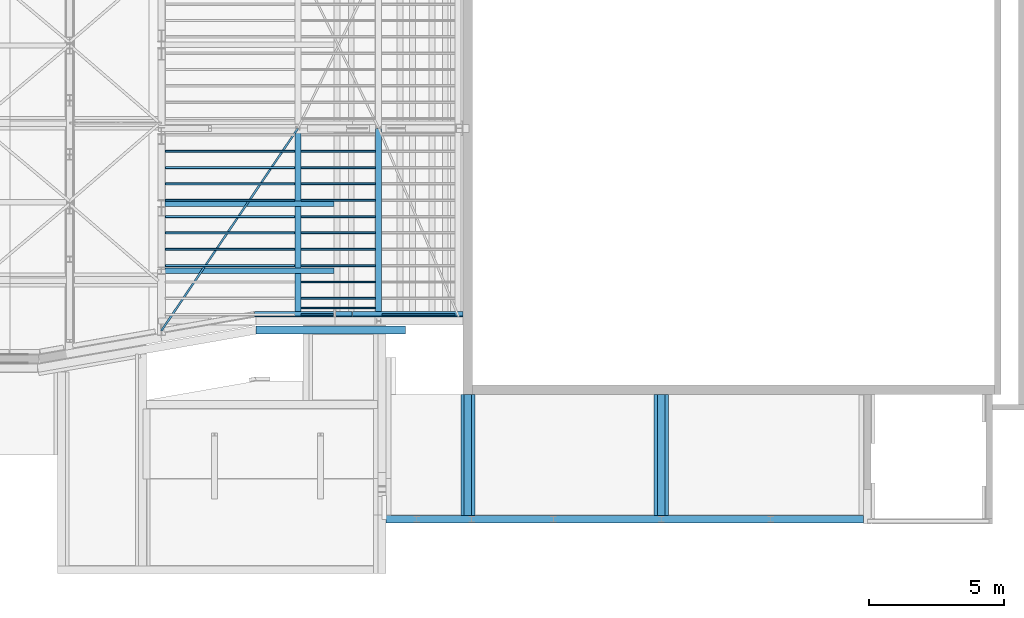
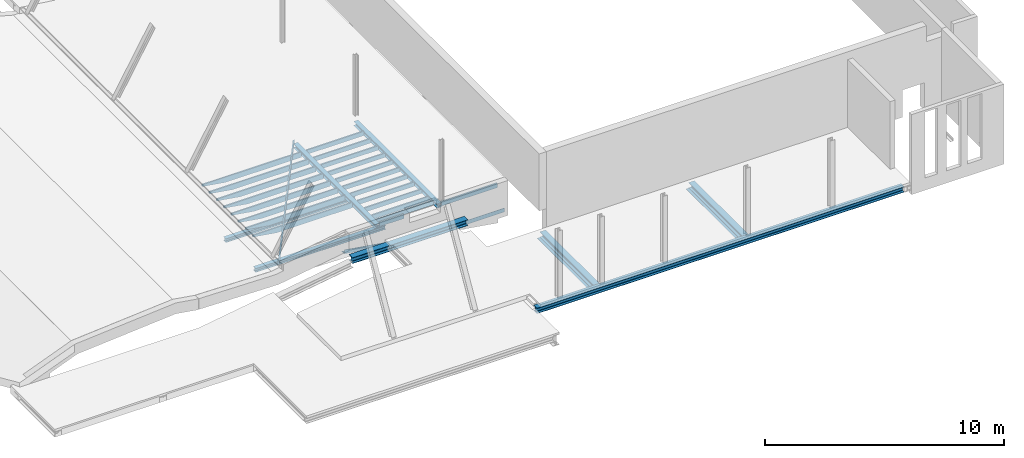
# One storey, part 26 of 50: 32 beams.
"""IFC2X3 building model written with IfcOpenShell, lengths in millimetres."""

import ifcopenshell
import ifcopenshell.guid

model = None  # the IFC model being written
_history = None  # IfcOwnerHistory: only IFC2X3 demands one
_inside = {}  # id of a spatial element -> (the spatial element, [elements in it])
_under = {}  # id of a project, library or spatial element -> (it, [spatial elements below it])
_declared = {}  # id of a project -> (the project, [libraries it declares])
_typed = {}  # id of a type object -> (the type object, [elements of that type])
_made_of = {}  # id of a material, layer set ... -> (it, [elements and type objects made of it])


def new_model(schema):
    """Start an empty IFC model of exactly this schema.

    Asked for "IFC4X3", IfcOpenShell would pick the latest addendum, in which some entities
    have other attributes; the version numbers below select the first issue.
    IFC2X3 requires an IfcOwnerHistory on every rooted entity: one is made here for all.
    """
    global model, _history
    if schema == "IFC4X3":
        model = ifcopenshell.file(schema_version=(4, 3, 0, 0))
    else:
        model = ifcopenshell.file(schema=schema)
    _inside.clear()
    _under.clear()
    _declared.clear()
    _typed.clear()
    _made_of.clear()
    _history = None
    if model.schema == "IFC2X3":
        org = make("IfcOrganization", Name="unknown")
        user = make(
            "IfcPersonAndOrganization",
            ThePerson=make("IfcPerson", FamilyName="unknown"),
            TheOrganization=org,
        )
        app = make(
            "IfcApplication",
            ApplicationDeveloper=org,
            Version="unknown",
            ApplicationFullName="unknown",
            ApplicationIdentifier="unknown",
        )
        _history = make(
            "IfcOwnerHistory",
            OwningUser=user,
            OwningApplication=app,
            ChangeAction="ADDED",
            CreationDate=0,
        )
    return model


def make(cls, **values):
    """One entity of the class cls with the attributes given. An attribute that is None is left unset."""
    return model.create_entity(
        cls, **{name: value for name, value in values.items() if value is not None}
    )


def entity(cls, *values):
    """Any entity or typed value of the class cls, its attributes in the order of the schema. None: left unset."""
    e = model.create_entity(cls)
    for i, value in enumerate(values):
        if value is not None:
            e[i] = value
    return e


def rooted(cls, **values):
    """An entity with a GlobalId (a new one), such as an element, a storey or a relation."""
    return make(cls, GlobalId=ifcopenshell.guid.new(), OwnerHistory=_history, **values)


def si_unit(unit_type, name, prefix=None):
    """IfcSIUnit, for example si_unit("LENGTHUNIT", "METRE", prefix="MILLI")."""
    return make("IfcSIUnit", UnitType=unit_type, Prefix=prefix, Name=name)


def converted_unit(unit_type, name, factor, base, dimensions=None, offset=None):
    """IfcConversionBasedUnit, such as the inch: factor (a typed value) times the base unit."""
    return make(
        "IfcConversionBasedUnit"
        if offset is None
        else "IfcConversionBasedUnitWithOffset",
        ConversionOffset=offset,
        Dimensions=None
        if dimensions is None
        else entity("IfcDimensionalExponents", *dimensions),
        UnitType=unit_type,
        Name=name,
        ConversionFactor=make(
            "IfcMeasureWithUnit", ValueComponent=factor, UnitComponent=base
        ),
    )


def derived_unit(unit_type, elements):
    """IfcDerivedUnit: a product of units, each with its exponent."""
    return make(
        "IfcDerivedUnit",
        Elements=[
            make("IfcDerivedUnitElement", Unit=unit, Exponent=power)
            for unit, power in elements
        ],
        UnitType=unit_type,
    )


def assignment(units):
    """IfcUnitAssignment: the units of a project."""
    return None if units is None else make("IfcUnitAssignment", Units=units)


def point(xyz):
    """IfcCartesianPoint."""
    return None if xyz is None else make("IfcCartesianPoint", Coordinates=xyz)


def direction(xyz):
    """IfcDirection."""
    return None if xyz is None else make("IfcDirection", DirectionRatios=xyz)


def frame(location, z_axis=None, x_axis=None):
    """IfcAxis2Placement3D, a coordinate frame: its origin and axes. An axis left out is left unset."""
    return make(
        "IfcAxis2Placement3D",
        Location=point(location),
        Axis=direction(z_axis),
        RefDirection=direction(x_axis),
    )


def frame_2d(location, x_axis=None):
    """IfcAxis2Placement2D, a coordinate frame in the plane: its origin and x axis."""
    return make(
        "IfcAxis2Placement2D", Location=point(location), RefDirection=direction(x_axis)
    )


def origin():
    """The frame at (0, 0, 0) with its axes left unset."""
    return frame((0.0, 0.0, 0.0))


def place(relative_to, where):
    """IfcLocalPlacement: puts the frame where relative to a parent placement (None: the world)."""
    return make(
        "IfcLocalPlacement", PlacementRelTo=relative_to, RelativePlacement=where
    )


def context(
    kind, dimensions, precision=None, world=None, true_north=None, identifier=None
):
    """IfcGeometricRepresentationContext, for example the 3D "Model" context."""
    return make(
        "IfcGeometricRepresentationContext",
        ContextIdentifier=identifier,
        ContextType=kind,
        CoordinateSpaceDimension=dimensions,
        Precision=precision,
        WorldCoordinateSystem=world,
        TrueNorth=true_north,
    )


def subcontext(parent, identifier, kind, view, scale=None):
    """IfcGeometricRepresentationSubContext, for example "Body" below "Model"."""
    return make(
        "IfcGeometricRepresentationSubContext",
        ContextIdentifier=identifier,
        ContextType=kind,
        ParentContext=parent,
        TargetScale=scale,
        TargetView=view,
    )


def project(units=None, contexts=None):
    """IfcProject with its units and contexts."""
    return rooted(
        "IfcProject",
        Name="project",
        RepresentationContexts=contexts,
        UnitsInContext=assignment(units),
    )


def spatial(cls, under=None, at=None, **own):
    """A site, building, storey or space (cls), placed at a placement, below another one or the project."""
    s = rooted(cls, ObjectPlacement=at, **own)
    if under is not None:
        _under.setdefault(under.id(), (under, []))[1].append(s)
    return s


def polyline(points):
    """IfcPolyline through the points."""
    return make("IfcPolyline", Points=[point(p) for p in points])


def circle_curve(where, radius):
    """IfcCircle in the frame where."""
    return make("IfcCircle", Position=where, Radius=radius)


def parameter(value):
    """IfcParameterValue: where a trimmed curve begins or ends, as a parameter of its basis curve."""
    return model.create_entity("IfcParameterValue", value)


def trimmed(basis, trim1, trim2, sense, master):
    """IfcTrimmedCurve: the piece of a basis curve between two trims."""
    return make(
        "IfcTrimmedCurve",
        BasisCurve=basis,
        Trim1=trim1,
        Trim2=trim2,
        SenseAgreement=sense,
        MasterRepresentation=master,
    )


def segment(curve, same_sense, transition):
    """IfcCompositeCurveSegment."""
    return make(
        "IfcCompositeCurveSegment",
        Transition=transition,
        SameSense=same_sense,
        ParentCurve=curve,
    )


def composite_curve(segments, self_intersect=None):
    """IfcCompositeCurve: segments joined end to end."""
    return make("IfcCompositeCurve", Segments=segments, SelfIntersect=self_intersect)


def profile(cls, at=None, kind="AREA", **sizes):
    """A parametric profile (cls). Its sizes go by their IFC names, for example OverallWidth=200.0."""
    return make(cls, ProfileType=kind, Position=at, **sizes)


def rectangle(**sizes):
    """IfcRectangleProfileDef."""
    return profile("IfcRectangleProfileDef", **sizes)


def i_section(**sizes):
    """IfcIShapeProfileDef."""
    return profile("IfcIShapeProfileDef", **sizes)


def outline(outer, holes=None, kind="AREA"):
    """IfcArbitraryClosedProfileDef: a profile drawn as a closed curve; with holes, ...WithVoids."""
    if holes is None:
        return make("IfcArbitraryClosedProfileDef", ProfileType=kind, OuterCurve=outer)
    return make(
        "IfcArbitraryProfileDefWithVoids",
        ProfileType=kind,
        OuterCurve=outer,
        InnerCurves=holes,
    )


def extrude(swept, where, along, depth):
    """IfcExtrudedAreaSolid: the profile swept, set in the frame where, extruded along a direction by depth."""
    return make(
        "IfcExtrudedAreaSolid",
        SweptArea=swept,
        Position=where,
        ExtrudedDirection=direction(along),
        Depth=depth,
    )


def clip(a, b, op="DIFFERENCE"):
    """IfcBooleanClippingResult: the solid a cut by the half space b."""
    return make(
        "IfcBooleanClippingResult", Operator=op, FirstOperand=a, SecondOperand=b
    )


def halfspace(plane, agree):
    """IfcHalfSpaceSolid: all space on one side of the plane z = 0 of the frame plane."""
    return make(
        "IfcHalfSpaceSolid",
        BaseSurface=make("IfcPlane", Position=plane),
        AgreementFlag=agree,
    )


def shape(context_of_items, identifier, shape_type, items):
    """IfcShapeRepresentation: the items that make up one representation, for example the "Body"."""
    return make(
        "IfcShapeRepresentation",
        ContextOfItems=context_of_items,
        RepresentationIdentifier=identifier,
        RepresentationType=shape_type,
        Items=items,
    )


def source(mapping_origin, context_of_items, identifier, shape_type, items):
    """IfcRepresentationMap: a shape defined once, which mapped items show again and again."""
    return make(
        "IfcRepresentationMap",
        MappingOrigin=mapping_origin,
        MappedRepresentation=shape(context_of_items, identifier, shape_type, items),
    )


def transform(
    local_origin,
    x_axis=None,
    y_axis=None,
    z_axis=None,
    scale=None,
    scale2=None,
    scale3=None,
    uniform=True,
):
    """IfcCartesianTransformationOperator3D, or its non-uniform kind. x_axis, y_axis, z_axis: its Axis1, 2, 3."""
    if uniform:
        return make(
            "IfcCartesianTransformationOperator3D",
            Axis1=direction(x_axis),
            Axis2=direction(y_axis),
            LocalOrigin=point(local_origin),
            Scale=scale,
            Axis3=direction(z_axis),
        )
    return make(
        "IfcCartesianTransformationOperator3DnonUniform",
        Axis1=direction(x_axis),
        Axis2=direction(y_axis),
        LocalOrigin=point(local_origin),
        Scale=scale,
        Axis3=direction(z_axis),
        Scale2=scale2,
        Scale3=scale3,
    )


def mapped(mapping_source, mapping_target):
    """IfcMappedItem: shows the shape of a source again, moved by a transform."""
    return make(
        "IfcMappedItem", MappingSource=mapping_source, MappingTarget=mapping_target
    )


def material(Name=None, Category=None):
    """IfcMaterial."""
    return make("IfcMaterial", Name=Name, Category=Category)


def material_list(materials):
    """IfcMaterialList."""
    return make("IfcMaterialList", Materials=materials)


def made_of(thing, what):
    """Note that an element or type object is made of a material, layer set ...; save() writes the relation."""
    if what is not None:
        _made_of.setdefault(what.id(), (what, []))[1].append(thing)
    return thing


def type_object(cls, material=None, **own):
    """A type object (cls), such as IfcWallType, which elements share."""
    return made_of(rooted(cls, **own), material)


def type_shapes(of_type, sources):
    """Give a type object the sources (RepresentationMaps) that its elements show as mapped items."""
    of_type.RepresentationMaps = sources


def element(
    cls,
    number,
    at=None,
    inside=None,
    cuts=None,
    type_object=None,
    material=None,
    context=None,
    identifier="Body",
    shape_type=None,
    held_by="IfcProductDefinitionShape",
    body=None,
    shapes=None,
    **own,
):
    """One element of the class cls, such as IfcWall. Its Tag is "e" and its number.

    at: its placement. inside: the storey or other place that contains it. cuts: it is an
    opening in that element (IfcRelVoidsElement). A single representation is given by context,
    identifier, shape_type and body (its items); several are given by shapes. held_by: the class
    of the entity that holds the representations. save() writes the other relations.
    """
    e = rooted(cls, Tag="e%d" % number, ObjectPlacement=at, **own)
    if body is not None:
        shapes = [shape(context, identifier, shape_type, body)]
    if shapes is not None:
        e.Representation = make(held_by, Representations=shapes)
    if inside is not None:
        _inside.setdefault(inside.id(), (inside, []))[1].append(e)
    if cuts is not None:
        rooted(
            "IfcRelVoidsElement", RelatingBuildingElement=cuts, RelatedOpeningElement=e
        )
    if type_object is not None:
        _typed.setdefault(type_object.id(), (type_object, []))[1].append(e)
    return made_of(e, material)


def aggregate(whole, parts):
    """IfcRelAggregates: a whole, such as a stair, and the parts it consists of."""
    return rooted("IfcRelAggregates", RelatingObject=whole, RelatedObjects=parts)


def save(model, path):
    """Write the relations noted so far, then the file.

    IfcRelAggregates (storeys below a building ...), IfcRelContainedInSpatialStructure (elements
    in a storey), IfcRelDefinesByType, IfcRelAssociatesMaterial and IfcRelDeclares: one each for
    every whole, place, type object, material and project.
    """
    for whole, parts in _under.values():
        aggregate(whole, parts)
    for where, things in _inside.values():
        rooted(
            "IfcRelContainedInSpatialStructure",
            RelatedElements=things,
            RelatingStructure=where,
        )
    for kind, things in _typed.values():
        rooted("IfcRelDefinesByType", RelatedObjects=things, RelatingType=kind)
    for what, things in _made_of.values():
        rooted("IfcRelAssociatesMaterial", RelatedObjects=things, RelatingMaterial=what)
    for by, libraries in _declared.values():
        rooted("IfcRelDeclares", RelatingContext=by, RelatedDefinitions=libraries)
    model.write(path)


model = new_model("IFC2X3")

# Units and contexts
model_context = context("Model", 3, precision=0.01, world=origin(), true_north=direction((6.12303176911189e-17, 1.0)))
body_context = subcontext(model_context, "Body", "Model", "MODEL_VIEW")
ifc_project = project(units=[si_unit("LENGTHUNIT", "METRE", prefix="MILLI"), si_unit("AREAUNIT", "SQUARE_METRE", prefix="MILLI"), si_unit("VOLUMEUNIT", "CUBIC_METRE"), converted_unit("PLANEANGLEUNIT", "DEGREE", entity("IfcRatioMeasure", 0.0174532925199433), si_unit("PLANEANGLEUNIT", "RADIAN"), dimensions=[0, 0, 0, 0, 0, 0, 0]), si_unit("MASSUNIT", "GRAM", prefix="KILO"), derived_unit("MASSDENSITYUNIT", [(si_unit("MASSUNIT", "GRAM", prefix="KILO"), 1), (si_unit("LENGTHUNIT", "METRE"), -3)]), derived_unit("MOMENTOFINERTIAUNIT", [(si_unit("LENGTHUNIT", "METRE"), 4)]), si_unit("TIMEUNIT", "SECOND"), si_unit("FREQUENCYUNIT", "HERTZ"), si_unit("THERMODYNAMICTEMPERATUREUNIT", "DEGREE_CELSIUS"), derived_unit("THERMALTRANSMITTANCEUNIT", [(si_unit("MASSUNIT", "GRAM", prefix="KILO"), 1), (si_unit("THERMODYNAMICTEMPERATUREUNIT", "KELVIN"), -1), (si_unit("TIMEUNIT", "SECOND"), -3)]), derived_unit("VOLUMETRICFLOWRATEUNIT", [(si_unit("LENGTHUNIT", "METRE"), 3), (si_unit("TIMEUNIT", "SECOND"), -1)]), si_unit("ELECTRICCURRENTUNIT", "AMPERE"), si_unit("ELECTRICVOLTAGEUNIT", "VOLT"), si_unit("POWERUNIT", "WATT"), si_unit("FORCEUNIT", "NEWTON", prefix="KILO"), si_unit("ILLUMINANCEUNIT", "LUX"), si_unit("LUMINOUSFLUXUNIT", "LUMEN"), si_unit("LUMINOUSINTENSITYUNIT", "CANDELA"), derived_unit("USERDEFINED", [(si_unit("MASSUNIT", "GRAM", prefix="KILO"), -1), (si_unit("LENGTHUNIT", "METRE"), -2), (si_unit("TIMEUNIT", "SECOND"), 3), (si_unit("LUMINOUSFLUXUNIT", "LUMEN"), 1)]), derived_unit("LINEARVELOCITYUNIT", [(si_unit("LENGTHUNIT", "METRE"), 1), (si_unit("TIMEUNIT", "SECOND"), -1)]), si_unit("PRESSUREUNIT", "PASCAL"), derived_unit("USERDEFINED", [(si_unit("LENGTHUNIT", "METRE"), -2), (si_unit("MASSUNIT", "GRAM", prefix="KILO"), 1), (si_unit("TIMEUNIT", "SECOND"), -2)]), derived_unit("LINEARFORCEUNIT", [(si_unit("MASSUNIT", "GRAM", prefix="KILO"), 1), (si_unit("LENGTHUNIT", "METRE"), 1), (si_unit("TIMEUNIT", "SECOND"), -2), (si_unit("LENGTHUNIT", "METRE"), -1)]), derived_unit("PLANARFORCEUNIT", [(si_unit("MASSUNIT", "GRAM", prefix="KILO"), 1), (si_unit("LENGTHUNIT", "METRE"), 1), (si_unit("TIMEUNIT", "SECOND"), -2), (si_unit("LENGTHUNIT", "METRE"), -2)])], contexts=[model_context])

# Site, building, storey
site_placement = place(None, origin())
site = spatial("IfcSite", under=ifc_project, at=site_placement, Name="Theater aan de Parade", CompositionType="ELEMENT")
building_placement = place(site_placement, origin())
building = spatial("IfcBuilding", under=site, at=building_placement, Name="Theater aan de Parade", CompositionType="ELEMENT")
storey_placement = place(building_placement, frame((0.0, 0.0, 15820.0)))
storey = spatial("IfcBuildingStorey", under=building, at=storey_placement, Name="04 vierde verdieping", CompositionType="ELEMENT", Elevation=15820.0)

# Beams
ifc_material_1 = material(Name="00_PBT_MAT_staal_S355")
beam_type_1 = type_object("IfcBeamType", Name="28_PBT_SF_staal_H-profiel (void):S355_HE300B", PredefinedType="NOTDEFINED")
beam_1_placement = place(storey_placement, frame((59652.0520755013, 21855.0, 0.0)))
element("IfcBeam", 1, at=beam_1_placement, inside=storey, type_object=beam_type_1, material=ifc_material_1, Name="28_PBT_SF_staal_H-profiel (void):S355_HE300B", ObjectType="28_PBT_SF_staal_H-profiel (void):S355_HE300B", context=body_context, shape_type="SweptSolid", body=[
    extrude(outline(composite_curve([segment(polyline([(131.0, -150.0), (150.0, -150.0)]), True, "CONTINUOUS"), segment(polyline([(150.0, -150.0), (150.0, 150.0)]), True, "CONTINUOUS"), segment(polyline([(150.0, 150.0), (131.0, 150.0)]), True, "CONTINUOUS"), segment(polyline([(131.0, 150.0), (131.0, 32.5000000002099)]), True, "CONTINUOUS"), segment(trimmed(circle_curve(frame_2d((104.0, 32.5000000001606), x_axis=(1.0, 0.0)), 26.9999999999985), [parameter(269.999999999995)], [parameter(0.0)], True, "PARAMETER"), False, "CONTINUOUS"), segment(polyline([(104.0, 5.50000000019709), (-104.0, 5.49999999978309)]), True, "CONTINUOUS"), segment(trimmed(circle_curve(frame_2d((-104.0, 32.4999999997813), x_axis=(0.0, -1.0)), 26.9999999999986), [parameter(269.999999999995)], [parameter(0.0)], True, "PARAMETER"), False, "CONTINUOUS"), segment(polyline([(-131.0, 32.4999999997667), (-131.0, 150.0)]), True, "CONTINUOUS"), segment(polyline([(-131.0, 150.0), (-150.0, 150.0)]), True, "CONTINUOUS"), segment(polyline([(-150.0, 150.0), (-150.0, -150.0)]), True, "CONTINUOUS"), segment(polyline([(-150.0, -150.0), (-131.0, -150.0)]), True, "CONTINUOUS"), segment(polyline([(-131.0, -150.0), (-131.0, -32.5000000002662)]), True, "CONTINUOUS"), segment(trimmed(circle_curve(frame_2d((-104.0, -32.5000000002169), x_axis=(-1.0, 0.0)), 26.9999999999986), [parameter(269.999999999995)], [parameter(0.0)], True, "PARAMETER"), False, "CONTINUOUS"), segment(polyline([(-104.0, -5.50000000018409), (104.0, -5.4999999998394)]), True, "CONTINUOUS"), segment(trimmed(circle_curve(frame_2d((104.0, -32.4999999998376), x_axis=(0.0, 1.0)), 26.9999999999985), [parameter(269.999999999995)], [parameter(0.0)], True, "PARAMETER"), False, "CONTINUOUS"), segment(polyline([(131.0, -32.4999999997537), (131.0, -150.0)]), True, "CONTINUOUS")], self_intersect=False)), frame((0.0, 0.0, 365.0), z_axis=(1.0, 0.0, 0.0), x_axis=(0.0, 0.0, -1.0)), (0.0, 0.0, 1.0), 5560.0),
])
beam_type_2 = type_object("IfcBeamType", Name="28_PBT_SF_staal_H-profiel (void):S355_HE280B", PredefinedType="NOTDEFINED")
beam_2_placement = place(storey_placement, frame((82220.0084217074, 14822.0, 0.0), z_axis=(0.0, 0.0, 1.0), x_axis=(-1.0, 0.0, 0.0)))
element("IfcBeam", 2, at=beam_2_placement, inside=storey, type_object=beam_type_2, material=ifc_material_1, Name="28_PBT_SF_staal_H-profiel (void):S355_HE280B", ObjectType="28_PBT_SF_staal_H-profiel (void):S355_HE280B", context=body_context, shape_type="SweptSolid", body=[
    extrude(outline(composite_curve([segment(polyline([(122.0, -140.0), (140.0, -140.0)]), True, "CONTINUOUS"), segment(polyline([(140.0, -140.0), (140.0, 140.0)]), True, "CONTINUOUS"), segment(polyline([(140.0, 140.0), (122.0, 140.0)]), True, "CONTINUOUS"), segment(polyline([(122.0, 140.0), (122.0, 29.2499999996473)]), True, "CONTINUOUS"), segment(trimmed(circle_curve(frame_2d((98.0, 29.2499999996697), x_axis=(1.0, 0.0)), 24.0000000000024), [parameter(270.00000000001)], [parameter(0.0)], True, "PARAMETER"), False, "CONTINUOUS"), segment(polyline([(98.0, 5.24999999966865), (-98.0, 5.2500000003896)]), True, "CONTINUOUS"), segment(trimmed(circle_curve(frame_2d((-98.0, 29.25000000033), x_axis=(0.0, -1.0)), 24.000000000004), [parameter(270.000000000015)], [parameter(0.0)], True, "PARAMETER"), False, "CONTINUOUS"), segment(polyline([(-122.0, 29.2500000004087), (-122.0, 140.0)]), True, "CONTINUOUS"), segment(polyline([(-122.0, 140.0), (-140.0, 140.0)]), True, "CONTINUOUS"), segment(polyline([(-140.0, 140.0), (-140.0, -140.0)]), True, "CONTINUOUS"), segment(polyline([(-140.0, -140.0), (-122.0, -140.0)]), True, "CONTINUOUS"), segment(polyline([(-122.0, -140.0), (-122.0, -29.2499999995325)]), True, "CONTINUOUS"), segment(trimmed(circle_curve(frame_2d((-98.0, -29.249999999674), x_axis=(-1.0, 0.0)), 24.0000000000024), [parameter(270.00000000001)], [parameter(0.0)], True, "PARAMETER"), False, "CONTINUOUS"), segment(polyline([(-98.0, -5.24999999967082), (98.0, -5.25000000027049)]), True, "CONTINUOUS"), segment(trimmed(circle_curve(frame_2d((98.0, -29.2500000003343), x_axis=(0.0, 1.0)), 24.0000000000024), [parameter(270.00000000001)], [parameter(0.0)], True, "PARAMETER"), False, "CONTINUOUS"), segment(polyline([(122.0, -29.250000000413), (122.0, -140.0)]), True, "CONTINUOUS")], self_intersect=False)), frame((0.0, 0.0, 365.0), z_axis=(1.0, 0.0, 0.0), x_axis=(0.0, 0.0, -1.0)), (0.0, 0.0, 1.0), 17725.4563461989),
])
beam_type_3 = type_object("IfcBeamType", Name="28_PBT_SF_staal_H-profiel:S355_HE220A", PredefinedType="NOTDEFINED")
beam_3_placement = place(storey_placement, frame((64216.05603639, 29346.916549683, 0.0), z_axis=(0.0, 0.0, 1.0), x_axis=(0.0, -1.0, 0.0)))
element("IfcBeam", 3, at=beam_3_placement, inside=storey, type_object=beam_type_3, material=ifc_material_1, Name="28_PBT_SF_staal_H-profiel:S355_HE220A", ObjectType="28_PBT_SF_staal_H-profiel:S355_HE220A", context=body_context, shape_type="SweptSolid", body=[
    extrude(outline(composite_curve([segment(polyline([(94.0, -110.0), (105.0, -110.0)]), True, "CONTINUOUS"), segment(polyline([(105.0, -110.0), (105.0, 110.0)]), True, "CONTINUOUS"), segment(polyline([(105.0, 110.0), (94.0, 110.0)]), True, "CONTINUOUS"), segment(polyline([(94.0, 110.0), (94.0, 21.4999999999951)]), True, "CONTINUOUS"), segment(trimmed(circle_curve(frame_2d((76.0, 21.4999999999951), x_axis=(1.0, 0.0)), 17.9999999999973), [parameter(269.999999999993)], [parameter(0.0)], True, "PARAMETER"), False, "CONTINUOUS"), segment(polyline([(76.0, 3.49999999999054), (-76.0, 3.49999999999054)]), True, "CONTINUOUS"), segment(trimmed(circle_curve(frame_2d((-76.0, 21.4999999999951), x_axis=(0.0, -1.0)), 17.9999999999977), [parameter(269.999999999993)], [parameter(0.0)], True, "PARAMETER"), False, "CONTINUOUS"), segment(polyline([(-94.0, 21.4999999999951), (-94.0, 110.0)]), True, "CONTINUOUS"), segment(polyline([(-94.0, 110.0), (-105.0, 110.0)]), True, "CONTINUOUS"), segment(polyline([(-105.0, 110.0), (-105.0, -110.0)]), True, "CONTINUOUS"), segment(polyline([(-105.0, -110.0), (-94.0, -110.0)]), True, "CONTINUOUS"), segment(polyline([(-94.0, -110.0), (-94.0, -21.5000000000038)]), True, "CONTINUOUS"), segment(trimmed(circle_curve(frame_2d((-76.0, -21.5000000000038), x_axis=(-1.0, 0.0)), 17.9999999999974), [parameter(269.999999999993)], [parameter(0.0)], True, "PARAMETER"), False, "CONTINUOUS"), segment(polyline([(-76.0, -3.50000000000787), (76.0, -3.50000000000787)]), True, "CONTINUOUS"), segment(trimmed(circle_curve(frame_2d((76.0, -21.5000000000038), x_axis=(0.0, 1.0)), 17.9999999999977), [parameter(269.999999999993)], [parameter(0.0)], True, "PARAMETER"), False, "CONTINUOUS"), segment(polyline([(94.0, -21.5000000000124), (94.0, -110.0)]), True, "CONTINUOUS")], self_intersect=False)), frame((12.700000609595, 0.0, 1195.0), z_axis=(1.0, 0.0, 0.0), x_axis=(0.0, 0.0, -1.0)), (0.0, 0.0, 1.0), 6981.51654907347),
])
beam_4_placement = place(storey_placement, frame((61216.05603639, 29346.916549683, 0.0), z_axis=(0.0, 0.0, 1.0), x_axis=(0.0, -1.0, 0.0)))
element("IfcBeam", 4, at=beam_4_placement, inside=storey, type_object=beam_type_3, material=ifc_material_1, Name="28_PBT_SF_staal_H-profiel:S355_HE220A", ObjectType="28_PBT_SF_staal_H-profiel:S355_HE220A", context=body_context, shape_type="SweptSolid", body=[
    extrude(outline(composite_curve([segment(polyline([(94.0, -110.0), (105.0, -110.0)]), True, "CONTINUOUS"), segment(polyline([(105.0, -110.0), (105.0, 110.0)]), True, "CONTINUOUS"), segment(polyline([(105.0, 110.0), (94.0, 110.0)]), True, "CONTINUOUS"), segment(polyline([(94.0, 110.0), (94.0, 21.4999999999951)]), True, "CONTINUOUS"), segment(trimmed(circle_curve(frame_2d((76.0, 21.4999999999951), x_axis=(1.0, 0.0)), 17.9999999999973), [parameter(269.999999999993)], [parameter(0.0)], True, "PARAMETER"), False, "CONTINUOUS"), segment(polyline([(76.0, 3.49999999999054), (-76.0, 3.49999999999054)]), True, "CONTINUOUS"), segment(trimmed(circle_curve(frame_2d((-76.0, 21.4999999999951), x_axis=(0.0, -1.0)), 17.9999999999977), [parameter(269.999999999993)], [parameter(0.0)], True, "PARAMETER"), False, "CONTINUOUS"), segment(polyline([(-94.0, 21.4999999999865), (-94.0, 110.0)]), True, "CONTINUOUS"), segment(polyline([(-94.0, 110.0), (-105.0, 110.0)]), True, "CONTINUOUS"), segment(polyline([(-105.0, 110.0), (-105.0, -110.0)]), True, "CONTINUOUS"), segment(polyline([(-105.0, -110.0), (-94.0, -110.0)]), True, "CONTINUOUS"), segment(polyline([(-94.0, -110.0), (-94.0, -21.5000000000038)]), True, "CONTINUOUS"), segment(trimmed(circle_curve(frame_2d((-76.0, -21.5000000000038), x_axis=(-1.0, 0.0)), 17.9999999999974), [parameter(269.999999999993)], [parameter(0.0)], True, "PARAMETER"), False, "CONTINUOUS"), segment(polyline([(-76.0, -3.50000000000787), (76.0, -3.50000000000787)]), True, "CONTINUOUS"), segment(trimmed(circle_curve(frame_2d((76.0, -21.5000000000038), x_axis=(0.0, 1.0)), 17.9999999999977), [parameter(269.999999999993)], [parameter(0.0)], True, "PARAMETER"), False, "CONTINUOUS"), segment(polyline([(94.0, -21.5000000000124), (94.0, -110.0)]), True, "CONTINUOUS")], self_intersect=False)), frame((162.700000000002, 0.0, 1195.0), z_axis=(1.0, 0.0, 0.0), x_axis=(0.0, 0.0, -1.0)), (0.0, 0.0, 1.0), 6831.51654968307),
])
beam_type_4 = type_object("IfcBeamType", Name="28_PBT_SF_staal_L-profiel:S355_L200x200x20", PredefinedType="NOTDEFINED")
beam_5_placement = place(storey_placement, frame((59648.217324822, 22396.7999999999, 623.750445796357), z_axis=(0.156434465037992, 0.0, 0.987688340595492), x_axis=(0.987688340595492, 0.0, -0.156434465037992)))
element("IfcBeam", 5, at=beam_5_placement, inside=storey, type_object=beam_type_4, material=ifc_material_1, Name="28_PBT_SF_staal_L-profiel:S355_L200x200x20", ObjectType="28_PBT_SF_staal_L-profiel:S355_L200x200x20", context=body_context, shape_type="SweptSolid", body=[
    extrude(outline(composite_curve([segment(polyline([(-124.444444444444, -75.5555555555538), (75.5555555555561, -75.5555555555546)]), True, "CONTINUOUS"), segment(polyline([(75.5555555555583, -75.5555555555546), (75.5555555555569, 124.444444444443)]), True, "CONTINUOUS"), segment(polyline([(75.5555555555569, 124.444444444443), (64.5555555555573, 124.444444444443)]), True, "CONTINUOUS"), segment(trimmed(circle_curve(frame_2d((64.5555555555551, 115.444444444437), x_axis=(0.0, 1.0)), 9.00000000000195), [parameter(0.0)], [parameter(89.9999999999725)], True, "PARAMETER"), True, "CONTINUOUS"), segment(polyline([(55.5555555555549, 115.444444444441), (55.5555555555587, -37.5555555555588)]), True, "CONTINUOUS"), segment(trimmed(circle_curve(frame_2d((37.5555555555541, -37.5555555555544), x_axis=(1.0, 0.0)), 17.9999999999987), [parameter(270.0)], [parameter(0.0)], True, "PARAMETER"), False, "CONTINUOUS"), segment(polyline([(37.5555555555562, -55.5555555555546), (-115.444444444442, -55.555555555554)]), True, "CONTINUOUS"), segment(trimmed(circle_curve(frame_2d((-115.444444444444, -64.5555555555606), x_axis=(0.0, 1.0)), 9.00000000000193), [parameter(0.0)], [parameter(89.9999999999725)], True, "PARAMETER"), True, "CONTINUOUS"), segment(polyline([(-124.444444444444, -64.5555555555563), (-124.444444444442, -75.5555555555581)]), True, "CONTINUOUS")], self_intersect=False)), frame((0.0, 18.7555555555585, -199.444444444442), z_axis=(1.0, 0.0, 0.0), x_axis=(0.0, 0.0, -1.0)), (0.0, 0.0, 1.0), 3660.47239262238),
])
beam_6_placement = place(storey_placement, frame((63586.4226468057, 22396.8, 0.0)))
element("IfcBeam", 6, at=beam_6_placement, inside=storey, type_object=beam_type_4, material=ifc_material_1, Name="28_PBT_SF_staal_L-profiel:S355_L200x200x20", ObjectType="28_PBT_SF_staal_L-profiel:S355_L200x200x20", context=body_context, shape_type="SweptSolid", body=[
    extrude(outline(composite_curve([segment(polyline([(-124.444444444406, -75.5555555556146), (75.5555555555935, -75.5555555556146)]), True, "CONTINUOUS"), segment(polyline([(75.5555555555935, -75.5555555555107), (75.5555555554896, 124.444444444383)]), True, "CONTINUOUS"), segment(polyline([(75.5555555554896, 124.444444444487), (64.5555555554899, 124.444444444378)]), True, "CONTINUOUS"), segment(trimmed(circle_curve(frame_2d((64.5555555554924, 115.444444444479), x_axis=(0.0, 1.0)), 8.99999999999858), [parameter(0.0)], [parameter(90.0000000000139)], True, "PARAMETER"), True, "CONTINUOUS"), segment(polyline([(55.5555555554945, 115.444444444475), (55.555555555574, -37.5555555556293)]), True, "CONTINUOUS"), segment(trimmed(circle_curve(frame_2d((37.5555555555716, -37.5555555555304), x_axis=(1.0, 0.0)), 18.0000000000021), [parameter(270.000000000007)], [parameter(0.0)], True, "PARAMETER"), False, "CONTINUOUS"), segment(polyline([(37.5555555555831, -55.5555555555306), (-115.444444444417, -55.5555555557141)]), True, "CONTINUOUS"), segment(trimmed(circle_curve(frame_2d((-115.444444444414, -64.5555555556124), x_axis=(0.0, 1.0)), 8.99999999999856), [parameter(0.0)], [parameter(90.0000000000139)], True, "PARAMETER"), True, "CONTINUOUS"), segment(polyline([(-124.444444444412, -64.5555555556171), (-124.444444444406, -75.5555555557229)]), True, "CONTINUOUS")], self_intersect=False)), frame((-343.047898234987, 18.7555555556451, -144.444444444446), z_axis=(1.0, 0.0, 0.0), x_axis=(0.0, 0.0, -1.0)), (0.0, 0.0, 1.0), 4100.1813523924),
])
ifc_material_2 = material(Name="00_PBT_MAT_Lucht")
ifc_material_list_1 = material_list([ifc_material_1, ifc_material_2])
beam_type_5 = type_object("IfcBeamType", Name="28_PBT_SF_staal_H-profiel_met_onderplaat (void):S355_HE280B + onderplaat d=15", PredefinedType="BEAM", material=ifc_material_list_1)
shared_shape_1 = source(origin(), body_context, "Body", "SweptSolid", [
    extrude(i_section(OverallWidth=279.999999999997, OverallDepth=280.000000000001, WebThickness=10.4999999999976, FlangeThickness=17.9999999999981, FilletRadius=24.0000000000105, at=frame_2d((4.32009983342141e-12, 0.0), x_axis=(1.0, 0.0))), frame((67531.2561009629, 19460.0002435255, 16180.0), z_axis=(0.0, -1.0, 0.0), x_axis=(-1.0, 0.0, 0.0)), (0.0, 0.0, 1.0), 4498.00024352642),
    extrude(rectangle(XDim=15.0000000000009, YDim=530.000000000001, at=frame_2d((0.0, -1.08268949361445e-12), x_axis=(0.0, 1.0))), frame((67531.2561009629, 19460.0002435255, 16032.5), z_axis=(0.0, -1.0, 0.0), x_axis=(-1.0, 0.0, 0.0)), (0.0, 0.0, 1.0), 4498.00024352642),
])
type_shapes(beam_type_5, [shared_shape_1])
beam_7_placement = place(storey_placement, frame((0.0, 0.0, -15820.0)))
element("IfcBeam", 7, at=beam_7_placement, inside=storey, type_object=beam_type_5, material=ifc_material_1, Name="28_PBT_SF_staal_H-profiel_met_onderplaat (void):S355_HE280B + onderplaat d=15", ObjectType="28_PBT_SF_staal_H-profiel_met_onderplaat (void):S355_HE280B + onderplaat d=15", context=body_context, shape_type="MappedRepresentation", body=[
    mapped(shared_shape_1, transform((0.0, 0.0, 0.0), scale=1.0)),
])
beam_type_6 = type_object("IfcBeamType", Name="28_PBT_SF_staal_H-profiel:S355_HE200A", PredefinedType="NOTDEFINED")
beam_8_placement = place(storey_placement, frame((62560.0, 26550.0, 0.0), z_axis=(0.0, 0.0, 1.0), x_axis=(-1.0, 0.0, 0.0)))
element("IfcBeam", 8, at=beam_8_placement, inside=storey, type_object=beam_type_6, material=ifc_material_1, Name="28_PBT_SF_staal_H-profiel:S355_HE200A", ObjectType="28_PBT_SF_staal_H-profiel:S355_HE200A", context=body_context, shape_type="SweptSolid", body=[
    extrude(i_section(OverallWidth=199.999999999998, OverallDepth=190.0, WebThickness=6.50000000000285, FlangeThickness=9.99999999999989, FilletRadius=18.0000000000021, at=frame_2d((0.0, 2.16715534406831e-12), x_axis=(0.0, 1.0))), frame((0.0, 0.0, -310.0), z_axis=(1.0, 0.0, 0.0), x_axis=(0.0, 0.0, -1.0)), (0.0, 0.0, 1.0), 6286.62525142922),
])
beam_9_placement = place(storey_placement, frame((62560.0, 24050.0, 0.0), z_axis=(0.0, 0.0, 1.0), x_axis=(-1.0, 0.0, 0.0)))
element("IfcBeam", 9, at=beam_9_placement, inside=storey, type_object=beam_type_6, material=ifc_material_1, Name="28_PBT_SF_staal_H-profiel:S355_HE200A", ObjectType="28_PBT_SF_staal_H-profiel:S355_HE200A", context=body_context, shape_type="SweptSolid", body=[
    extrude(i_section(OverallWidth=199.999999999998, OverallDepth=190.0, WebThickness=6.50000000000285, FlangeThickness=9.99999999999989, FilletRadius=18.0000000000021, at=frame_2d((0.0, 6.50146603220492e-12), x_axis=(0.0, 1.0))), frame((0.0, 0.0, -310.0), z_axis=(1.0, 0.0, 0.0), x_axis=(0.0, 0.0, -1.0)), (0.0, 0.0, 1.0), 6286.62525142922),
])
ifc_material_list_2 = material_list([ifc_material_2, ifc_material_1])
beam_type_7 = type_object("IfcBeamType", Name="28_PBT_SF_staal_H-profiel_met_onderplaat (void):S355_HE280B + onderplaat d=15", PredefinedType="BEAM", material=ifc_material_list_2)
shared_shape_2 = source(origin(), body_context, "Body", "SweptSolid", [
    extrude(i_section(OverallWidth=279.999999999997, OverallDepth=280.000000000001, WebThickness=10.4999999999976, FlangeThickness=17.9999999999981, FilletRadius=24.0000000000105, at=frame_2d((4.32009983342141e-12, 0.0), x_axis=(1.0, 0.0))), frame((74711.8589693, 19460.0002435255, 16180.0), z_axis=(0.0, -1.0, 0.0), x_axis=(-1.0, 0.0, 0.0)), (0.0, 0.0, 1.0), 4498.00024352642),
    extrude(rectangle(XDim=15.0000000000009, YDim=530.000000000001, at=frame_2d((0.0, -1.08268949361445e-12), x_axis=(0.0, 1.0))), frame((74711.8589693, 19460.0002435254, 16032.5), z_axis=(0.0, -1.0, 0.0), x_axis=(-1.0, 0.0, 0.0)), (0.0, 0.0, 1.0), 4498.00024352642),
])
type_shapes(beam_type_7, [shared_shape_2])
beam_10_placement = place(storey_placement, frame((0.0, 0.0, -15820.0)))
element("IfcBeam", 10, at=beam_10_placement, inside=storey, type_object=beam_type_7, material=ifc_material_1, Name="28_PBT_SF_staal_H-profiel_met_onderplaat (void):S355_HE280B + onderplaat d=15", ObjectType="28_PBT_SF_staal_H-profiel_met_onderplaat (void):S355_HE280B + onderplaat d=15", context=body_context, shape_type="MappedRepresentation", body=[
    mapped(shared_shape_2, transform((0.0, 0.0, 0.0), scale=1.0)),
])
ifc_material_3 = material(Name="00_PBT_MAT_hout")
beam_type_8 = type_object("IfcBeamType", Name="28_PBT_SF_rechthoekig hout:70x270", PredefinedType="NOTDEFINED")
beam_11_placement = place(storey_placement, frame((61216.0560363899, 24246.0, 0.0), z_axis=(0.0, 0.0, 1.0), x_axis=(-1.0, 0.0, 0.0)))
element("IfcBeam", 11, at=beam_11_placement, inside=storey, type_object=beam_type_8, material=ifc_material_3, Name="28_PBT_SF_rechthoekig hout:70x270", ObjectType="28_PBT_SF_rechthoekig hout:70x270", context=body_context, shape_type="Clipping", body=[
    clip(extrude(rectangle(XDim=270.000000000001, YDim=70.0000000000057, at=frame_2d((2.16715534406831e-12, 0.0), x_axis=(0.0, 1.0))), frame((122.699999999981, 0.0, 1187.0), z_axis=(1.0, 0.0, 0.0), x_axis=(0.0, 1.0, 0.0)), (0.0, 0.0, 1.0), 4799.9812878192), halfspace(frame((2971.92563283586, 4922.68128781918, 920.0), z_axis=(0.156434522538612, 0.0, -0.987688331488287), x_axis=(0.0, -1.0, 0.0)), False)),
])
for number, where, z_axis, x_axis, name in (
    (12, (61216.0560363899, 24853.0, 0.0), (0.0, 0.0, 1.0), (-1.0, 0.0, 0.0), "28_PBT_SF_rechthoekig hout:70x270"),
    (13, (61216.0560363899, 25460.0, 0.0), (0.0, 0.0, 1.0), (-1.0, 0.0, 0.0), "28_PBT_SF_rechthoekig hout:70x270"),
):
    element("IfcBeam", number, at=place(storey_placement, frame(where, z_axis=z_axis, x_axis=x_axis)), inside=storey, type_object=beam_type_8, material=ifc_material_3, Name=name, ObjectType="28_PBT_SF_rechthoekig hout:70x270", context=body_context, shape_type="Clipping", body=[
        clip(extrude(rectangle(XDim=270.000000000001, YDim=70.0000000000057, at=frame_2d((-2.16715534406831e-12, 0.0), x_axis=(0.0, 1.0))), frame((122.699999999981, 0.0, 1187.0), z_axis=(1.0, 0.0, 0.0), x_axis=(0.0, 1.0, 0.0)), (0.0, 0.0, 1.0), 4799.9812878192), halfspace(frame((2971.92563283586, 4922.68128781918, 920.0), z_axis=(0.156434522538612, 0.0, -0.987688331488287), x_axis=(0.0, -1.0, 0.0)), False)),
    ])
for number, where, z_axis, x_axis, name in (
    (14, (61216.0560363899, 26067.0, 0.0), (0.0, 0.0, 1.0), (-1.0, 0.0, 0.0), "28_PBT_SF_rechthoekig hout:70x270"),
    (15, (61216.0560363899, 26674.0, 0.0), (0.0, 0.0, 1.0), (-1.0, 0.0, 0.0), "28_PBT_SF_rechthoekig hout:70x270"),
):
    element("IfcBeam", number, at=place(storey_placement, frame(where, z_axis=z_axis, x_axis=x_axis)), inside=storey, type_object=beam_type_8, material=ifc_material_3, Name=name, ObjectType="28_PBT_SF_rechthoekig hout:70x270", context=body_context, shape_type="Clipping", body=[
        clip(extrude(rectangle(XDim=270.000000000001, YDim=70.0000000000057, at=frame_2d((2.16715534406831e-12, 0.0), x_axis=(0.0, 1.0))), frame((122.699999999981, 0.0, 1187.0), z_axis=(1.0, 0.0, 0.0), x_axis=(0.0, 1.0, 0.0)), (0.0, 0.0, 1.0), 4799.9812878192), halfspace(frame((2971.92563283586, 4922.68128781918, 920.0), z_axis=(0.156434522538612, 0.0, -0.987688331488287), x_axis=(0.0, -1.0, 0.0)), False)),
    ])
for number, where, z_axis, x_axis, name in (
    (16, (61216.0560363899, 27281.0, 0.0), (0.0, 0.0, 1.0), (-1.0, 0.0, 0.0), "28_PBT_SF_rechthoekig hout:70x270"),
    (17, (61216.0560363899, 27888.0, 0.0), (0.0, 0.0, 1.0), (-1.0, 0.0, 0.0), "28_PBT_SF_rechthoekig hout:70x270"),
):
    element("IfcBeam", number, at=place(storey_placement, frame(where, z_axis=z_axis, x_axis=x_axis)), inside=storey, type_object=beam_type_8, material=ifc_material_3, Name=name, ObjectType="28_PBT_SF_rechthoekig hout:70x270", context=body_context, shape_type="Clipping", body=[
        clip(extrude(rectangle(XDim=270.000000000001, YDim=70.0000000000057, at=frame_2d((-2.16715534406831e-12, 0.0), x_axis=(0.0, 1.0))), frame((122.699999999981, 0.0, 1187.0), z_axis=(1.0, 0.0, 0.0), x_axis=(0.0, 1.0, 0.0)), (0.0, 0.0, 1.0), 4799.9812878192), halfspace(frame((2971.92563283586, 4922.68128781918, 920.0), z_axis=(0.156434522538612, 0.0, -0.987688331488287), x_axis=(0.0, -1.0, 0.0)), False)),
    ])
beam_12_placement = place(storey_placement, frame((61216.0560363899, 28495.0, 0.0), z_axis=(0.0, 0.0, 1.0), x_axis=(-1.0, 0.0, 0.0)))
element("IfcBeam", 18, at=beam_12_placement, inside=storey, type_object=beam_type_8, material=ifc_material_3, Name="28_PBT_SF_rechthoekig hout:70x270", ObjectType="28_PBT_SF_rechthoekig hout:70x270", context=body_context, shape_type="Clipping", body=[
    clip(extrude(rectangle(XDim=270.000000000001, YDim=70.0000000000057, at=frame_2d((-2.16715534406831e-12, 0.0), x_axis=(0.0, 1.0))), frame((122.699999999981, 0.0, 1187.0), z_axis=(1.0, 0.0, 0.0), x_axis=(0.0, 1.0, 0.0)), (0.0, 0.0, 1.0), 4799.9812878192), halfspace(frame((2971.92563283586, 4922.68128781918, 920.0), z_axis=(0.156434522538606, 0.0, -0.987688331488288), x_axis=(0.0, -1.0, 0.0)), False)),
])
beam_type_9 = type_object("IfcBeamType", Name="28_PBT_SF_rechthoekig hout:70x220", PredefinedType="NOTDEFINED")
beam_13_placement = place(storey_placement, frame((67166.05603639, 22425.0, 0.0), z_axis=(0.0, 0.0, 1.0), x_axis=(-1.0, 0.0, 0.0)))
element("IfcBeam", 19, at=beam_13_placement, inside=storey, type_object=beam_type_9, material=ifc_material_3, Name="28_PBT_SF_rechthoekig hout:70x220", ObjectType="28_PBT_SF_rechthoekig hout:70x220", context=body_context, shape_type="SweptSolid", body=[
    extrude(rectangle(XDim=220.0, YDim=70.0000000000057, at=frame_2d((1.08002495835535e-12, -2.16715534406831e-12), x_axis=(1.0, 0.0))), frame((122.700000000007, 0.0, 1212.0), z_axis=(1.0, 0.0, 0.0), x_axis=(0.0, 0.0, -1.0)), (0.0, 0.0, 1.0), 2704.6),
])
for number, where, name in (
    (20, (61216.05603639, 23032.0, 0.0), "28_PBT_SF_rechthoekig hout:70x220"),
    (21, (61216.05603639, 23639.0, 0.0), "28_PBT_SF_rechthoekig hout:70x220"),
    (22, (61216.05603639, 24246.0, 0.0), "28_PBT_SF_rechthoekig hout:70x220"),
):
    element("IfcBeam", number, at=place(storey_placement, frame(where)), inside=storey, type_object=beam_type_9, material=ifc_material_3, Name=name, ObjectType="28_PBT_SF_rechthoekig hout:70x220", context=body_context, shape_type="SweptSolid", body=[
        extrude(rectangle(XDim=220.0, YDim=70.0000000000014, at=frame_2d((1.08002495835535e-12, -2.16360263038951e-12), x_axis=(1.0, 0.0))), frame((122.699999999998, 0.0, 1212.0), z_axis=(1.0, 0.0, 0.0), x_axis=(0.0, 0.0, -1.0)), (0.0, 0.0, 1.0), 2754.59999999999),
    ])
beam_14_placement = place(storey_placement, frame((61216.05603639, 24853.0, 0.0)))
element("IfcBeam", 23, at=beam_14_placement, inside=storey, type_object=beam_type_9, material=ifc_material_3, Name="28_PBT_SF_rechthoekig hout:70x220", ObjectType="28_PBT_SF_rechthoekig hout:70x220", context=body_context, shape_type="SweptSolid", body=[
    extrude(rectangle(XDim=220.0, YDim=70.0000000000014, at=frame_2d((1.08002495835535e-12, 2.16360263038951e-12), x_axis=(1.0, 0.0))), frame((122.699999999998, 0.0, 1212.0), z_axis=(1.0, 0.0, 0.0), x_axis=(0.0, 0.0, -1.0)), (0.0, 0.0, 1.0), 2754.59999999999),
])
for number, where, name in (
    (24, (61216.05603639, 25460.0, 0.0), "28_PBT_SF_rechthoekig hout:70x220"),
    (25, (61216.05603639, 26067.0, 0.0), "28_PBT_SF_rechthoekig hout:70x220"),
    (26, (61216.05603639, 26674.0, 0.0), "28_PBT_SF_rechthoekig hout:70x220"),
):
    element("IfcBeam", number, at=place(storey_placement, frame(where)), inside=storey, type_object=beam_type_9, material=ifc_material_3, Name=name, ObjectType="28_PBT_SF_rechthoekig hout:70x220", context=body_context, shape_type="SweptSolid", body=[
        extrude(rectangle(XDim=220.0, YDim=70.0000000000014, at=frame_2d((1.08002495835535e-12, -2.16360263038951e-12), x_axis=(1.0, 0.0))), frame((122.699999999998, 0.0, 1212.0), z_axis=(1.0, 0.0, 0.0), x_axis=(0.0, 0.0, -1.0)), (0.0, 0.0, 1.0), 2754.59999999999),
    ])
for number, where, name in (
    (27, (61216.05603639, 27281.0, 0.0), "28_PBT_SF_rechthoekig hout:70x220"),
    (28, (61216.05603639, 27888.0, 0.0), "28_PBT_SF_rechthoekig hout:70x220"),
):
    element("IfcBeam", number, at=place(storey_placement, frame(where)), inside=storey, type_object=beam_type_9, material=ifc_material_3, Name=name, ObjectType="28_PBT_SF_rechthoekig hout:70x220", context=body_context, shape_type="SweptSolid", body=[
        extrude(rectangle(XDim=220.0, YDim=70.0000000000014, at=frame_2d((1.08002495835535e-12, 2.16360263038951e-12), x_axis=(1.0, 0.0))), frame((122.699999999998, 0.0, 1212.0), z_axis=(1.0, 0.0, 0.0), x_axis=(0.0, 0.0, -1.0)), (0.0, 0.0, 1.0), 2754.59999999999),
    ])
beam_15_placement = place(storey_placement, frame((61216.05603639, 28495.0, 0.0)))
element("IfcBeam", 29, at=beam_15_placement, inside=storey, type_object=beam_type_9, material=ifc_material_3, Name="28_PBT_SF_rechthoekig hout:70x220", ObjectType="28_PBT_SF_rechthoekig hout:70x220", context=body_context, shape_type="SweptSolid", body=[
    extrude(rectangle(XDim=220.0, YDim=70.0000000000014, at=frame_2d((1.08002495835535e-12, -2.16360263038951e-12), x_axis=(1.0, 0.0))), frame((122.699999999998, 0.0, 1212.0), z_axis=(1.0, 0.0, 0.0), x_axis=(0.0, 0.0, -1.0)), (0.0, 0.0, 1.0), 2754.59999999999),
])
beam_16_placement = place(storey_placement, frame((61216.05603639, 22425.0, 0.0)))
element("IfcBeam", 30, at=beam_16_placement, inside=storey, type_object=beam_type_9, material=ifc_material_3, Name="28_PBT_SF_rechthoekig hout:70x220", ObjectType="28_PBT_SF_rechthoekig hout:70x220", context=body_context, shape_type="SweptSolid", body=[
    extrude(rectangle(XDim=220.0, YDim=70.0000000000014, at=frame_2d((1.08002495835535e-12, 2.16360263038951e-12), x_axis=(1.0, 0.0))), frame((122.699999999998, 0.0, 1212.0), z_axis=(1.0, 0.0, 0.0), x_axis=(0.0, 0.0, -1.0)), (0.0, 0.0, 1.0), 1194.60000001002),
])
beam_17_placement = place(storey_placement, frame((61216.05603639, 22670.23751712, 0.0)))
element("IfcBeam", 31, at=beam_17_placement, inside=storey, type_object=beam_type_9, material=ifc_material_3, Name="28_PBT_SF_rechthoekig hout:70x220", ObjectType="28_PBT_SF_rechthoekig hout:70x220", context=body_context, shape_type="SweptSolid", body=[
    extrude(rectangle(XDim=220.0, YDim=70.0000000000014, at=frame_2d((1.08002495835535e-12, -2.16360263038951e-12), x_axis=(1.0, 0.0))), frame((122.699999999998, 0.0, 1212.0), z_axis=(1.0, 0.0, 0.0), x_axis=(0.0, 0.0, -1.0)), (0.0, 0.0, 1.0), 2754.59999999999),
])
ifc_material_4 = material(Name="00_PBT_MAT_staal")
beam_type_10 = type_object("IfcBeamType", Name="28_PBT_SF_staal_strip:strip 70x7", PredefinedType="NOTDEFINED")
beam_18_placement = place(storey_placement, frame((61216.05603639, 29343.916549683, 0.0), z_axis=(0.0, 0.0, 1.0), x_axis=(-0.559334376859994, -0.82894212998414, 0.0)))
element("IfcBeam", 32, at=beam_18_placement, inside=storey, type_object=beam_type_10, material=ifc_material_4, Name="28_PBT_SF_staal_strip:strip 70x7", ObjectType="28_PBT_SF_staal_strip:strip 70x7", context=body_context, shape_type="SweptSolid", body=[
    extrude(rectangle(XDim=6.99999999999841, YDim=69.999999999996, at=frame_2d((1.08291153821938e-12, 1.08144604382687e-11), x_axis=(1.0, 0.0))), frame((0.0, 0.0, 1349.5), z_axis=(1.0, 0.0, 0.0), x_axis=(0.0, 0.0, -1.0)), (0.0, 0.0, 1.0), 9069.13913694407),
])

save(model, "model.ifc")
